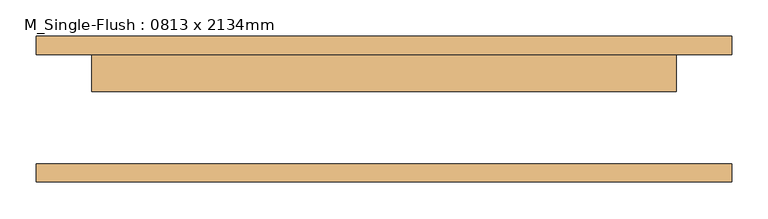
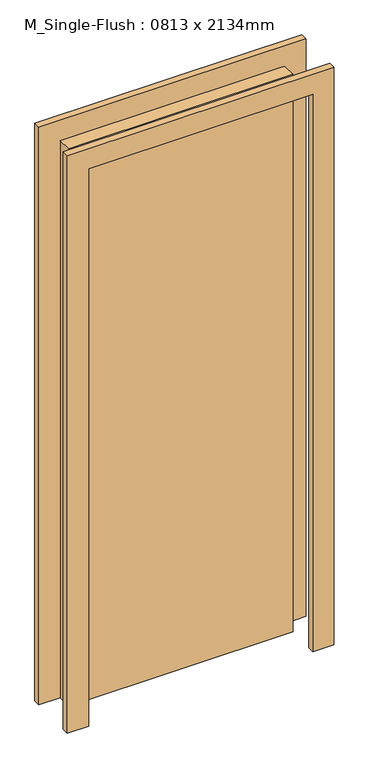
"""IFC4 building model written with IfcOpenShell, lengths in millimetres: door geometry, M_Single-Flush : 0813 x 2134mm."""

import ifcopenshell
import ifcopenshell.guid

model = None  # the IFC model being written
_history = None  # IfcOwnerHistory: only IFC2X3 demands one
_inside = {}  # id of a spatial element -> (the spatial element, [elements in it])
_under = {}  # id of a project, library or spatial element -> (it, [spatial elements below it])
_declared = {}  # id of a project -> (the project, [libraries it declares])
_typed = {}  # id of a type object -> (the type object, [elements of that type])
_made_of = {}  # id of a material, layer set ... -> (it, [elements and type objects made of it])


def new_model(schema):
    """Start an empty IFC model of exactly this schema.

    Asked for "IFC4X3", IfcOpenShell would pick the latest addendum, in which some entities
    have other attributes; the version numbers below select the first issue.
    IFC2X3 requires an IfcOwnerHistory on every rooted entity: one is made here for all.
    """
    global model, _history
    if schema == "IFC4X3":
        model = ifcopenshell.file(schema_version=(4, 3, 0, 0))
    else:
        model = ifcopenshell.file(schema=schema)
    _inside.clear()
    _under.clear()
    _declared.clear()
    _typed.clear()
    _made_of.clear()
    _history = None
    if model.schema == "IFC2X3":
        org = make("IfcOrganization", Name="unknown")
        user = make(
            "IfcPersonAndOrganization",
            ThePerson=make("IfcPerson", FamilyName="unknown"),
            TheOrganization=org,
        )
        app = make(
            "IfcApplication",
            ApplicationDeveloper=org,
            Version="unknown",
            ApplicationFullName="unknown",
            ApplicationIdentifier="unknown",
        )
        _history = make(
            "IfcOwnerHistory",
            OwningUser=user,
            OwningApplication=app,
            ChangeAction="ADDED",
            CreationDate=0,
        )
    return model


def make(cls, **values):
    """One entity of the class cls with the attributes given. An attribute that is None is left unset."""
    return model.create_entity(
        cls, **{name: value for name, value in values.items() if value is not None}
    )


def rooted(cls, **values):
    """An entity with a GlobalId (a new one), such as an element, a storey or a relation."""
    return make(cls, GlobalId=ifcopenshell.guid.new(), OwnerHistory=_history, **values)


def si_unit(unit_type, name, prefix=None):
    """IfcSIUnit, for example si_unit("LENGTHUNIT", "METRE", prefix="MILLI")."""
    return make("IfcSIUnit", UnitType=unit_type, Prefix=prefix, Name=name)


def assignment(units):
    """IfcUnitAssignment: the units of a project."""
    return None if units is None else make("IfcUnitAssignment", Units=units)


def point(xyz):
    """IfcCartesianPoint."""
    return None if xyz is None else make("IfcCartesianPoint", Coordinates=xyz)


def direction(xyz):
    """IfcDirection."""
    return None if xyz is None else make("IfcDirection", DirectionRatios=xyz)


def frame(location, z_axis=None, x_axis=None):
    """IfcAxis2Placement3D, a coordinate frame: its origin and axes. An axis left out is left unset."""
    return make(
        "IfcAxis2Placement3D",
        Location=point(location),
        Axis=direction(z_axis),
        RefDirection=direction(x_axis),
    )


def origin():
    """The frame at (0, 0, 0) with its axes left unset."""
    return frame((0.0, 0.0, 0.0))


def origin_with_axes():
    """The frame at (0, 0, 0) with the z axis (0, 0, 1) and the x axis (1, 0, 0) written out."""
    return frame((0.0, 0.0, 0.0), z_axis=(0.0, 0.0, 1.0), x_axis=(1.0, 0.0, 0.0))


def place(relative_to, where):
    """IfcLocalPlacement: puts the frame where relative to a parent placement (None: the world)."""
    return make(
        "IfcLocalPlacement", PlacementRelTo=relative_to, RelativePlacement=where
    )


def context(
    kind, dimensions, precision=None, world=None, true_north=None, identifier=None
):
    """IfcGeometricRepresentationContext, for example the 3D "Model" context."""
    return make(
        "IfcGeometricRepresentationContext",
        ContextIdentifier=identifier,
        ContextType=kind,
        CoordinateSpaceDimension=dimensions,
        Precision=precision,
        WorldCoordinateSystem=world,
        TrueNorth=true_north,
    )


def project(units=None, contexts=None):
    """IfcProject with its units and contexts."""
    return rooted(
        "IfcProject",
        Name="project",
        RepresentationContexts=contexts,
        UnitsInContext=assignment(units),
    )


def spatial(cls, under=None, at=None, **own):
    """A site, building, storey or space (cls), placed at a placement, below another one or the project."""
    s = rooted(cls, ObjectPlacement=at, **own)
    if under is not None:
        _under.setdefault(under.id(), (under, []))[1].append(s)
    return s


def polyline(points):
    """IfcPolyline through the points."""
    return make("IfcPolyline", Points=[point(p) for p in points])


def outline(outer, holes=None, kind="AREA"):
    """IfcArbitraryClosedProfileDef: a profile drawn as a closed curve; with holes, ...WithVoids."""
    if holes is None:
        return make("IfcArbitraryClosedProfileDef", ProfileType=kind, OuterCurve=outer)
    return make(
        "IfcArbitraryProfileDefWithVoids",
        ProfileType=kind,
        OuterCurve=outer,
        InnerCurves=holes,
    )


def extrude(swept, where, along, depth):
    """IfcExtrudedAreaSolid: the profile swept, set in the frame where, extruded along a direction by depth."""
    return make(
        "IfcExtrudedAreaSolid",
        SweptArea=swept,
        Position=where,
        ExtrudedDirection=direction(along),
        Depth=depth,
    )


def shape(context_of_items, identifier, shape_type, items):
    """IfcShapeRepresentation: the items that make up one representation, for example the "Body"."""
    return make(
        "IfcShapeRepresentation",
        ContextOfItems=context_of_items,
        RepresentationIdentifier=identifier,
        RepresentationType=shape_type,
        Items=items,
    )


def source(mapping_origin, context_of_items, identifier, shape_type, items):
    """IfcRepresentationMap: a shape defined once, which mapped items show again and again."""
    return make(
        "IfcRepresentationMap",
        MappingOrigin=mapping_origin,
        MappedRepresentation=shape(context_of_items, identifier, shape_type, items),
    )


def transform(
    local_origin,
    x_axis=None,
    y_axis=None,
    z_axis=None,
    scale=None,
    scale2=None,
    scale3=None,
    uniform=True,
):
    """IfcCartesianTransformationOperator3D, or its non-uniform kind. x_axis, y_axis, z_axis: its Axis1, 2, 3."""
    if uniform:
        return make(
            "IfcCartesianTransformationOperator3D",
            Axis1=direction(x_axis),
            Axis2=direction(y_axis),
            LocalOrigin=point(local_origin),
            Scale=scale,
            Axis3=direction(z_axis),
        )
    return make(
        "IfcCartesianTransformationOperator3DnonUniform",
        Axis1=direction(x_axis),
        Axis2=direction(y_axis),
        LocalOrigin=point(local_origin),
        Scale=scale,
        Axis3=direction(z_axis),
        Scale2=scale2,
        Scale3=scale3,
    )


def mapped(mapping_source, mapping_target):
    """IfcMappedItem: shows the shape of a source again, moved by a transform."""
    return make(
        "IfcMappedItem", MappingSource=mapping_source, MappingTarget=mapping_target
    )


def made_of(thing, what):
    """Note that an element or type object is made of a material, layer set ...; save() writes the relation."""
    if what is not None:
        _made_of.setdefault(what.id(), (what, []))[1].append(thing)
    return thing


def element(
    cls,
    number,
    at=None,
    inside=None,
    cuts=None,
    type_object=None,
    material=None,
    context=None,
    identifier="Body",
    shape_type=None,
    held_by="IfcProductDefinitionShape",
    body=None,
    shapes=None,
    **own,
):
    """One element of the class cls, such as IfcWall. Its Tag is "e" and its number.

    at: its placement. inside: the storey or other place that contains it. cuts: it is an
    opening in that element (IfcRelVoidsElement). A single representation is given by context,
    identifier, shape_type and body (its items); several are given by shapes. held_by: the class
    of the entity that holds the representations. save() writes the other relations.
    """
    e = rooted(cls, Tag="e%d" % number, ObjectPlacement=at, **own)
    if body is not None:
        shapes = [shape(context, identifier, shape_type, body)]
    if shapes is not None:
        e.Representation = make(held_by, Representations=shapes)
    if inside is not None:
        _inside.setdefault(inside.id(), (inside, []))[1].append(e)
    if cuts is not None:
        rooted(
            "IfcRelVoidsElement", RelatingBuildingElement=cuts, RelatedOpeningElement=e
        )
    if type_object is not None:
        _typed.setdefault(type_object.id(), (type_object, []))[1].append(e)
    return made_of(e, material)


def aggregate(whole, parts):
    """IfcRelAggregates: a whole, such as a stair, and the parts it consists of."""
    return rooted("IfcRelAggregates", RelatingObject=whole, RelatedObjects=parts)


def save(model, path):
    """Write the relations noted so far, then the file.

    IfcRelAggregates (storeys below a building ...), IfcRelContainedInSpatialStructure (elements
    in a storey), IfcRelDefinesByType, IfcRelAssociatesMaterial and IfcRelDeclares: one each for
    every whole, place, type object, material and project.
    """
    for whole, parts in _under.values():
        aggregate(whole, parts)
    for where, things in _inside.values():
        rooted(
            "IfcRelContainedInSpatialStructure",
            RelatedElements=things,
            RelatingStructure=where,
        )
    for kind, things in _typed.values():
        rooted("IfcRelDefinesByType", RelatedObjects=things, RelatingType=kind)
    for what, things in _made_of.values():
        rooted("IfcRelAssociatesMaterial", RelatedObjects=things, RelatingMaterial=what)
    for by, libraries in _declared.values():
        rooted("IfcRelDeclares", RelatingContext=by, RelatedDefinitions=libraries)
    model.write(path)


def m_single_flush_0813_x_2134mm_3ea254d8(model_context):
    return source(origin(), model_context, "Body", "SweptSolid", [
        extrude(outline(polyline([(2176.0, -476.05), (0.0, -476.05), (0.0, -400.05), (2100.0, -400.05), (2100.0, 400.05), (0.0, 400.05), (0.0, 476.05), (2176.0, 476.05), (2176.0, -476.05)])), frame((0.0, 75.0, 0.0), z_axis=(0.0, 1.0, 0.0), x_axis=(0.0, 0.0, 1.0)), (0.0, 0.0, 1.0), 25.0),
        extrude(outline(polyline([(2176.0, 476.05), (2176.0, -476.05), (0.0, -476.05), (0.0, -400.05), (2100.0, -400.05), (2100.0, 400.05), (0.0, 400.05), (0.0, 476.05), (2176.0, 476.05)])), frame((0.0, -100.0, 0.0), z_axis=(0.0, 1.0, 0.0), x_axis=(0.0, 0.0, 1.0)), (0.0, 0.0, 1.0), 25.0),
        extrude(outline(polyline([(400.05, 24.0), (-400.05, 24.0), (-400.05, 75.0), (400.05, 75.0), (400.05, 24.0)])), origin_with_axes(), (0.0, 0.0, 1.0), 2100.0),
    ])


if __name__ == "__main__":
    model = new_model("IFC4")
    model_context = context("Model", 3, world=origin())
    ifc_project = project(units=[si_unit("LENGTHUNIT", "METRE", prefix="MILLI")], contexts=[model_context])
    site = spatial("IfcSite", under=ifc_project)
    building = spatial("IfcBuilding", under=site)
    placement = place(None, origin())
    m_single_flush_0813_x_2134mm_shape = m_single_flush_0813_x_2134mm_3ea254d8(model_context)
    element("IfcDoor", 1, ObjectType="M_Single-Flush : 0813 x 2134mm", at=placement, inside=building, context=model_context, shape_type="MappedRepresentation", body=[
        mapped(m_single_flush_0813_x_2134mm_shape, transform((0.0, 0.0, 0.0), x_axis=(1.0, 0.0, 0.0), y_axis=(0.0, 1.0, 0.0), z_axis=(0.0, 0.0, 1.0))),
    ])
    save(model, "model.ifc")
